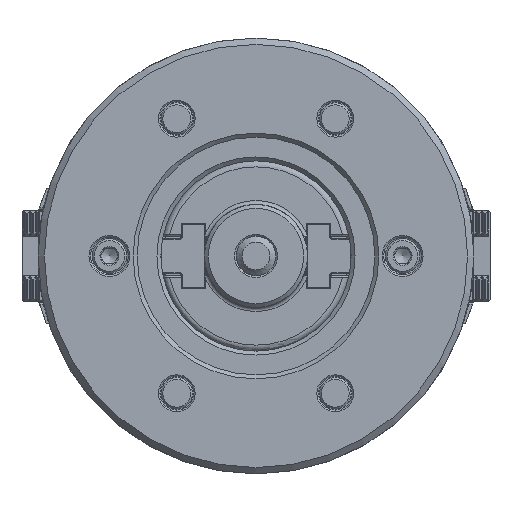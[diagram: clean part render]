
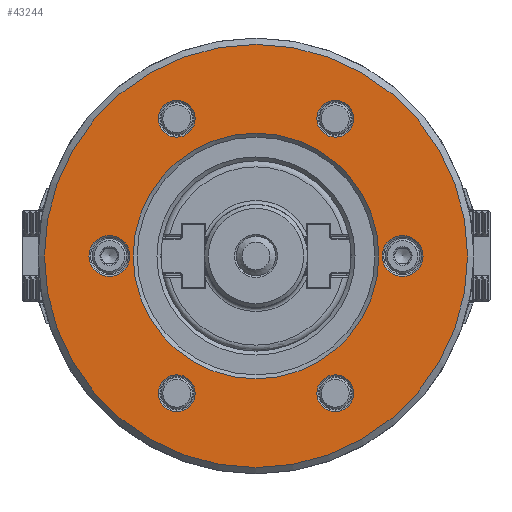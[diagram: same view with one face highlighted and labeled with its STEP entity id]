
A CAD part, left-side view. The second image highlights one B-rep face of the part: STEP entity #43244.
In plain terms, the highlighted planar face has unit normal (-1, 0, 0).
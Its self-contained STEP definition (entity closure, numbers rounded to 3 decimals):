
#2 = EDGE_CURVE ( 'NONE', #11425, #11425, #108, .T. ) ;
#108 = CIRCLE ( 'NONE', #57030, 5.15 ) ;
#1061 = CARTESIAN_POINT ( 'NONE',  ( -52., -20., 34.641 ) ) ;
#1734 = DIRECTION ( 'NONE',  ( 1., 0., 0. ) ) ;
#2424 = CARTESIAN_POINT ( 'NONE',  ( -52., -53.4, 0. ) ) ;
#2766 = DIRECTION ( 'NONE',  ( 0., 0., -1. ) ) ;
#2980 = VERTEX_POINT ( 'NONE', #39672 ) ;
#4555 = AXIS2_PLACEMENT_3D ( 'NONE', #2424, #54886, #2766 ) ;
#5794 = CARTESIAN_POINT ( 'NONE',  ( -52., -37., 0. ) ) ;
#6236 = AXIS2_PLACEMENT_3D ( 'NONE', #31330, #62864, #27528 ) ;
#6890 = FACE_OUTER_BOUND ( 'NONE', #66287, .T. ) ;
#7009 = CIRCLE ( 'NONE', #44298, 31. ) ;
#7598 = CARTESIAN_POINT ( 'NONE',  ( -52., -37., 5.15 ) ) ;
#8390 = AXIS2_PLACEMENT_3D ( 'NONE', #17673, #17331, #27280 ) ;
#8699 = CIRCLE ( 'NONE', #55780, 4.65 ) ;
#9304 = VERTEX_POINT ( 'NONE', #51132 ) ;
#9885 = DIRECTION ( 'NONE',  ( 0., 0., -1. ) ) ;
#11425 = VERTEX_POINT ( 'NONE', #7598 ) ;
#12695 = CARTESIAN_POINT ( 'NONE',  ( -52., 37., 5.15 ) ) ;
#12861 = CARTESIAN_POINT ( 'NONE',  ( -52., -20., 29.991 ) ) ;
#13004 = CIRCLE ( 'NONE', #35978, 4.65 ) ;
#13069 = FACE_BOUND ( 'NONE', #15607, .T. ) ;
#13102 = CARTESIAN_POINT ( 'NONE',  ( -52., 0., 0. ) ) ;
#14711 = CARTESIAN_POINT ( 'NONE',  ( -52., 20., 34.641 ) ) ;
#15607 = EDGE_LOOP ( 'NONE', ( #26661 ) ) ;
#15756 = EDGE_CURVE ( 'NONE', #9304, #9304, #67568, .T. ) ;
#17331 = DIRECTION ( 'NONE',  ( 1., 0., 0. ) ) ;
#17673 = CARTESIAN_POINT ( 'NONE',  ( -52., 0., 0. ) ) ;
#18245 = FACE_BOUND ( 'NONE', #43293, .T. ) ;
#19314 = ORIENTED_EDGE ( 'NONE', *, *, #63302, .F. ) ;
#22012 = DIRECTION ( 'NONE',  ( 0., 0., -1. ) ) ;
#22753 = ORIENTED_EDGE ( 'NONE', *, *, #39430, .T. ) ;
#22986 = VERTEX_POINT ( 'NONE', #59668 ) ;
#23169 = VERTEX_POINT ( 'NONE', #12861 ) ;
#23687 = EDGE_LOOP ( 'NONE', ( #22753 ) ) ;
#24081 = CARTESIAN_POINT ( 'NONE',  ( -52., 20., -34.641 ) ) ;
#24194 = EDGE_LOOP ( 'NONE', ( #63926 ) ) ;
#24208 = ORIENTED_EDGE ( 'NONE', *, *, #61103, .T. ) ;
#24269 = CARTESIAN_POINT ( 'NONE',  ( -52., -20., -39.291 ) ) ;
#25156 = CARTESIAN_POINT ( 'NONE',  ( -52., -20., -34.641 ) ) ;
#25418 = CIRCLE ( 'NONE', #48382, 4.65 ) ;
#26661 = ORIENTED_EDGE ( 'NONE', *, *, #46979, .T. ) ;
#27280 = DIRECTION ( 'NONE',  ( 0., 0., -1. ) ) ;
#27528 = DIRECTION ( 'NONE',  ( 0., 0., 1. ) ) ;
#27806 = VERTEX_POINT ( 'NONE', #12695 ) ;
#28227 = DIRECTION ( 'NONE',  ( 1., 0., 0. ) ) ;
#28486 = VERTEX_POINT ( 'NONE', #43883 ) ;
#29409 = VERTEX_POINT ( 'NONE', #24269 ) ;
#29562 = DIRECTION ( 'NONE',  ( 0., 0., -1. ) ) ;
#31330 = CARTESIAN_POINT ( 'NONE',  ( -52., 37., 0. ) ) ;
#32537 = CIRCLE ( 'NONE', #6236, 5.15 ) ;
#34879 = EDGE_LOOP ( 'NONE', ( #19314 ) ) ;
#35978 = AXIS2_PLACEMENT_3D ( 'NONE', #24081, #38485, #59410 ) ;
#38117 = FACE_BOUND ( 'NONE', #34879, .T. ) ;
#38485 = DIRECTION ( 'NONE',  ( 1., 0., 0. ) ) ;
#38783 = FACE_BOUND ( 'NONE', #51056, .T. ) ;
#39430 = EDGE_CURVE ( 'NONE', #2980, #2980, #7009, .T. ) ;
#39550 = DIRECTION ( 'NONE',  ( 0., 0., -1. ) ) ;
#39672 = CARTESIAN_POINT ( 'NONE',  ( -52., 0., -31. ) ) ;
#39869 = DIRECTION ( 'NONE',  ( -1., 0., 0. ) ) ;
#41097 = DIRECTION ( 'NONE',  ( 1., 0., 0. ) ) ;
#43244 = ADVANCED_FACE ( 'NONE', ( #43587, #38783, #49409, #38117, #13069, #18245, #6890, #44606 ), #43249, .F. ) ;
#43249 = PLANE ( 'NONE',  #4555 ) ;
#43293 = EDGE_LOOP ( 'NONE', ( #66219 ) ) ;
#43587 = FACE_BOUND ( 'NONE', #50809, .T. ) ;
#43883 = CARTESIAN_POINT ( 'NONE',  ( -52., 20., 29.991 ) ) ;
#44298 = AXIS2_PLACEMENT_3D ( 'NONE', #13102, #28227, #29562 ) ;
#44606 = FACE_BOUND ( 'NONE', #23687, .T. ) ;
#46041 = ORIENTED_EDGE ( 'NONE', *, *, #15756, .F. ) ;
#46979 = EDGE_CURVE ( 'NONE', #29409, #29409, #8699, .T. ) ;
#48056 = ORIENTED_EDGE ( 'NONE', *, *, #2, .F. ) ;
#48382 = AXIS2_PLACEMENT_3D ( 'NONE', #14711, #41097, #9885 ) ;
#49210 = EDGE_CURVE ( 'NONE', #23169, #23169, #59218, .T. ) ;
#49409 = FACE_BOUND ( 'NONE', #24194, .T. ) ;
#50278 = AXIS2_PLACEMENT_3D ( 'NONE', #1061, #1734, #22012 ) ;
#50809 = EDGE_LOOP ( 'NONE', ( #48056 ) ) ;
#51056 = EDGE_LOOP ( 'NONE', ( #24208 ) ) ;
#51132 = CARTESIAN_POINT ( 'NONE',  ( -52., 0., -53.4 ) ) ;
#54886 = DIRECTION ( 'NONE',  ( 1., 0., 0. ) ) ;
#55780 = AXIS2_PLACEMENT_3D ( 'NONE', #25156, #65632, #39550 ) ;
#57030 = AXIS2_PLACEMENT_3D ( 'NONE', #5794, #39869, #62409 ) ;
#59218 = CIRCLE ( 'NONE', #50278, 4.65 ) ;
#59410 = DIRECTION ( 'NONE',  ( 0., 0., -1. ) ) ;
#59668 = CARTESIAN_POINT ( 'NONE',  ( -52., 20., -39.291 ) ) ;
#61103 = EDGE_CURVE ( 'NONE', #22986, #22986, #13004, .T. ) ;
#62409 = DIRECTION ( 'NONE',  ( 0., 0., 1. ) ) ;
#62864 = DIRECTION ( 'NONE',  ( -1., 0., 0. ) ) ;
#63302 = EDGE_CURVE ( 'NONE', #27806, #27806, #32537, .T. ) ;
#63926 = ORIENTED_EDGE ( 'NONE', *, *, #65245, .T. ) ;
#65245 = EDGE_CURVE ( 'NONE', #28486, #28486, #25418, .T. ) ;
#65632 = DIRECTION ( 'NONE',  ( 1., 0., 0. ) ) ;
#66219 = ORIENTED_EDGE ( 'NONE', *, *, #49210, .T. ) ;
#66287 = EDGE_LOOP ( 'NONE', ( #46041 ) ) ;
#67568 = CIRCLE ( 'NONE', #8390, 53.4 ) ;
